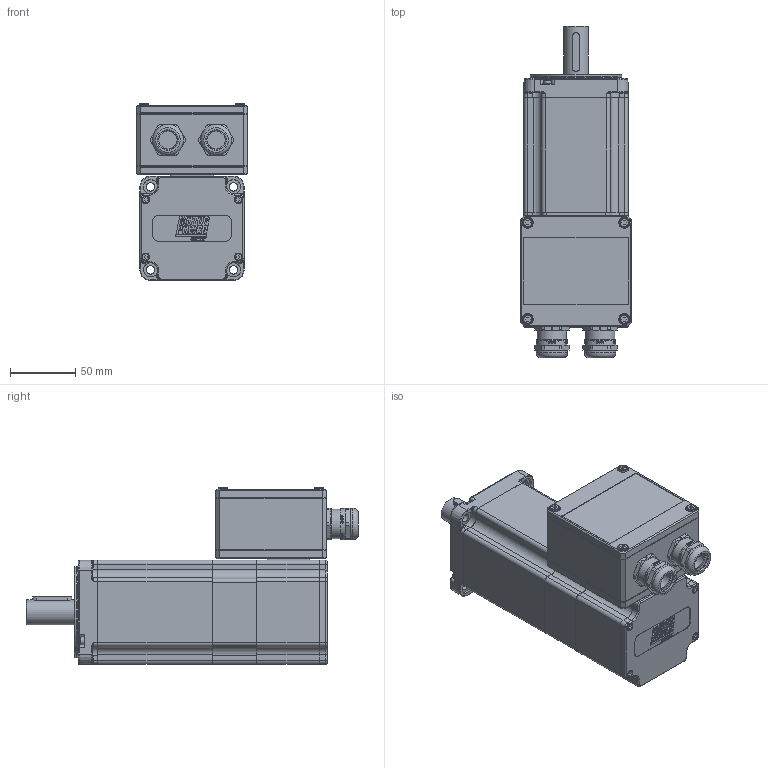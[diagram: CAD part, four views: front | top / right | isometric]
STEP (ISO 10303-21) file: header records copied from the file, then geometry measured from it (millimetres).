
FILE_DESCRIPTION(/* description */ ('Unknown'),/* implementation_level */ '2;1');
FILE_NAME(/* name */ 'TC4-80.3B LV M1 FRENO MORS Q0C152',/* time_stamp */ '2026-06-09T14:31:58+02:00',/* author */ ('Unknown'),/* organization */ ('Unknown'),/* preprocessor_version */ 'ST-DEVELOPER v19.4',/* originating_system */ 'Solid Edge',/* authorisation */ 'Unknown');
FILE_SCHEMA (('AUTOMOTIVE_DESIGN {1 0 10303 214 3 1 1}'));
Products named in the file (26): Q0C152 3B FRENO M1 VUOTO; 005119001500; 003155002220; 003103040223; Albero TC4 80 H38 A19 FRENO LV; 003107003286; 003755100351; 007303000110; 005911000160; 003151003188; 005911000420; 005603000170; 005603000170_Gland; 005603000170_Nut; 005603000170_Clamping insert; 005603000170_Sealing insert; 005603000170_O Ring; 007303000700; 005911000495; 003110000130; 005911000550; 003799004095; 005911000499; 003108002520; 005113000500; 003251040719
Assembly tree (39 placements, depth 3):
  Q0C152 3B FRENO M1 VUOTO
    005119001500
    003155002220
    003103040223
    Albero TC4 80 H38 A19 FRENO LV
    003107003286
    003755100351
    007303000110  x2
    005911000160  x4
    003151003188
    005911000420  x4
    005603000170  x2
      005603000170_Gland
      005603000170_Nut
      005603000170_Clamping insert
      005603000170_Sealing insert
      005603000170_O Ring
    007303000700
    005911000495  x4
    003110000130
    005911000550  x4
    003799004095
    005911000499
    003108002520
    005113000500
    003251040719
Bounding box: 85.23 x 254.69 x 135.71 mm (x, y, z)
Volume: 552553 mm3; surface area: 287086.8 mm2
Topology: 44 solids, 44 shells, 3159 faces, 8100 edges, 5206 vertices
Faces by surface type: plane 1885, cylinder 652, cone 237, bspline 189, torus 176, sphere 20
Full cylindrical faces by diameter (mm): 1 x8, 2.459 x36, 2.5 x1, 3 x9, 3.2 x1, 3.242 x4, 3.3 x4, 3.5 x16, 3.9 x2, 4 x8, 4.3 x1, 4.5 x4, 4.917 x1, 5 x9, 5.15 x8, 5.5 x9, 6 x4, 6.4 x1, 6.5 x4, 6.6 x4, 7 x12, 7.5 x1, 8 x4, 11 x4, 14 x2, 14.2 x2, 14.3 x2, 15 x2, 16.1 x4, 17 x1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
Entity records: 85935 total; most frequent: CARTESIAN_POINT 18523, ORIENTED_EDGE 11288, DIRECTION 11220, EDGE_CURVE 5644, AXIS2_PLACEMENT_3D 3999, VERTEX_POINT 3804, LINE 3222, VECTOR 3222
